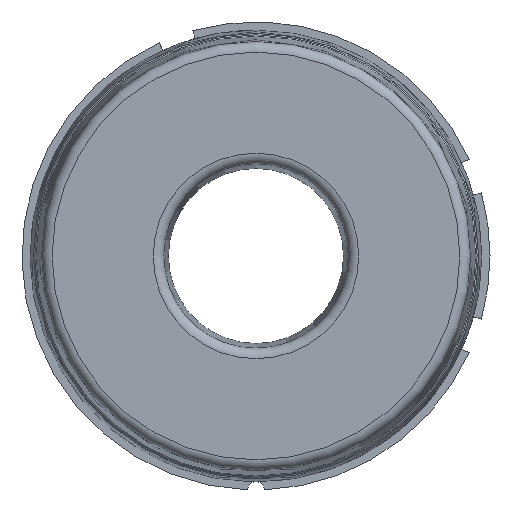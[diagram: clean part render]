
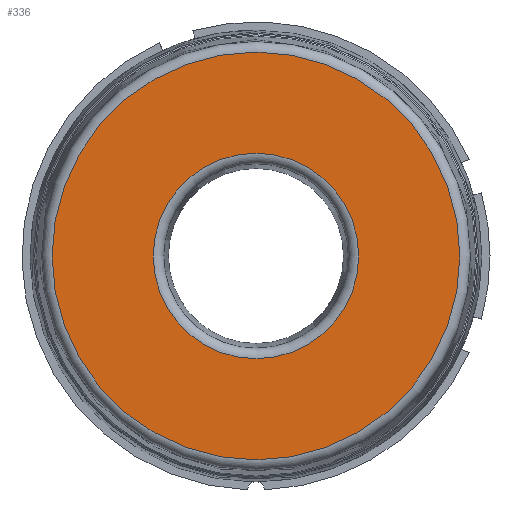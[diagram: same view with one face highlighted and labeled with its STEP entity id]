
A CAD part, left-side view. The second image highlights one B-rep face of the part: STEP entity #336.
In plain terms, the highlighted planar face has unit normal (-1, 0, 0).
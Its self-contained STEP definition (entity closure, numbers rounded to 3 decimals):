
#336=ADVANCED_FACE('',(#593,#595),#597,.T.);
#593=FACE_BOUND('',#594,.T.);
#594=EDGE_LOOP('',(#746));
#595=FACE_BOUND('',#596,.T.);
#596=EDGE_LOOP('',(#747));
#597=PLANE('',#598);
#598=AXIS2_PLACEMENT_3D('',#599,#600,#601);
#599=CARTESIAN_POINT('',(-181.35,0.,0.));
#600=DIRECTION('',(-1.,0.,0.));
#601=DIRECTION('',(0.,0.,1.));
#746=ORIENTED_EDGE('',*,*,#819,.T.);
#747=ORIENTED_EDGE('',*,*,#820,.F.);
#819=EDGE_CURVE('',#943,#943,#944,.T.);
#820=EDGE_CURVE('',#945,#945,#946,.T.);
#943=VERTEX_POINT('',#1427);
#944=CIRCLE('',#1428,97.57);
#945=VERTEX_POINT('',#1432);
#946=CIRCLE('',#1433,49.153);
#1427=CARTESIAN_POINT('',(-181.35,0.,97.57));
#1428=AXIS2_PLACEMENT_3D('',#1429,#1430,#1431);
#1429=CARTESIAN_POINT('',(-181.35,0.,0.));
#1430=DIRECTION('',(-1.,0.,0.));
#1431=DIRECTION('',(0.,0.,1.));
#1432=CARTESIAN_POINT('',(-181.35,0.,49.153));
#1433=AXIS2_PLACEMENT_3D('',#1434,#1435,#1436);
#1434=CARTESIAN_POINT('',(-181.35,0.,0.));
#1435=DIRECTION('',(-1.,0.,0.));
#1436=DIRECTION('',(0.,0.,1.));
